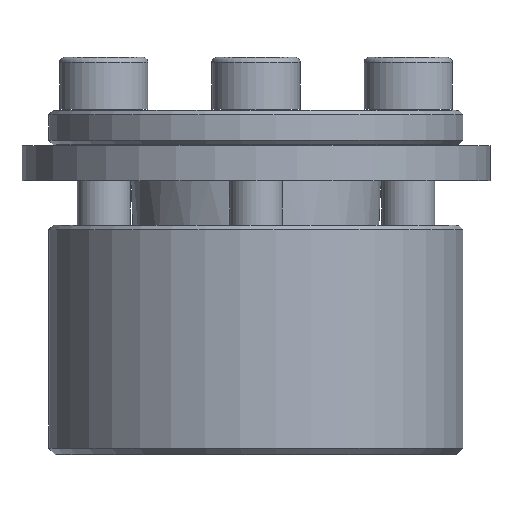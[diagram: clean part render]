
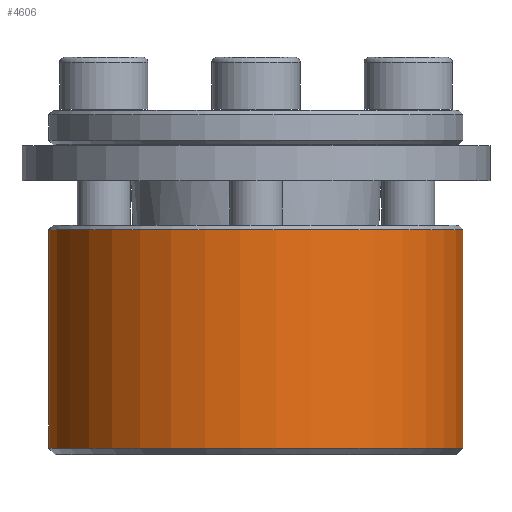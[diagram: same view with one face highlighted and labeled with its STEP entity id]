
A CAD part, front view. The second image highlights one B-rep face of the part: STEP entity #4606.
In plain terms, the highlighted cylindrical face has radius 23.5 mm (diameter 47 mm), a partial arc.
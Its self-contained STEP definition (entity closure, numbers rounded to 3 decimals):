
#2952=CARTESIAN_POINT('',(0.,0.,-30.25));
#2953=DIRECTION('',(0.,0.,1.));
#2954=DIRECTION('',(-0.737,0.676,0.));
#2955=AXIS2_PLACEMENT_3D('',#2952,#2953,#2954);
#2988=DIRECTION('',(0.,0.,-1.));
#2989=VECTOR('',#2988,24.75);
#2990=CARTESIAN_POINT('',(-15.895,17.309,
-5.5));
#2991=LINE('',#2990,#2989);
#2995=DIRECTION('',(0.,0.,-1.));
#2996=VECTOR('',#2995,24.75);
#2997=CARTESIAN_POINT('',(-17.309,15.895,
-5.5));
#2998=LINE('',#2997,#2996);
#3020=CARTESIAN_POINT('',(0.,0.,
-5.5));
#3021=DIRECTION('',(0.,0.,-1.));
#3022=DIRECTION('',(-0.676,0.737,0.));
#3023=AXIS2_PLACEMENT_3D('',#3020,#3021,#3022);
#3398=CARTESIAN_POINT('',(-17.309,15.895,
-5.5));
#3399=CARTESIAN_POINT('',(-17.309,15.895,
-30.25));
#3400=VERTEX_POINT('',#3398);
#3401=VERTEX_POINT('',#3399);
#3402=CARTESIAN_POINT('',(-15.895,17.309,
-5.5));
#3403=CARTESIAN_POINT('',(-15.895,17.309,
-30.25));
#3404=VERTEX_POINT('',#3402);
#3405=VERTEX_POINT('',#3403);
#4593=CARTESIAN_POINT('',(0.,0.,-3.7));
#4594=DIRECTION('',(0.,0.,-1.));
#4595=DIRECTION('',(0.,-1.,0.));
#4596=AXIS2_PLACEMENT_3D('',#4593,#4594,#4595);
#4597=CYLINDRICAL_SURFACE('',#4596,23.5);
#4599=ORIENTED_EDGE('',*,*,#4598,.F.);
#4601=ORIENTED_EDGE('',*,*,#4600,.T.);
#4602=ORIENTED_EDGE('',*,*,#4577,.F.);
#4603=ORIENTED_EDGE('',*,*,#4255,.F.);
#4604=EDGE_LOOP('',(#4599,#4601,#4602,#4603));
#4605=FACE_OUTER_BOUND('',#4604,.F.);
#4606=ADVANCED_FACE('',(#4605),#4597,.T.);
#2956=CIRCLE('',#2955,23.5);
#3024=CIRCLE('',#3023,23.5);
#4255=EDGE_CURVE('',#3400,#3401,#2998,.T.);
#4577=EDGE_CURVE('',#3401,#3405,#2956,.T.);
#4598=EDGE_CURVE('',#3404,#3400,#3024,.T.);
#4600=EDGE_CURVE('',#3404,#3405,#2991,.T.);
